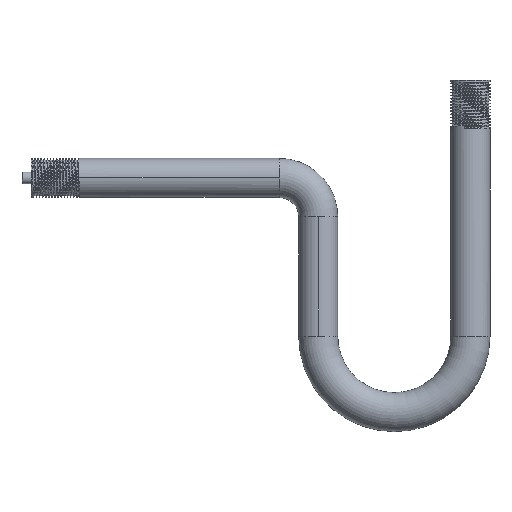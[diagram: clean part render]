
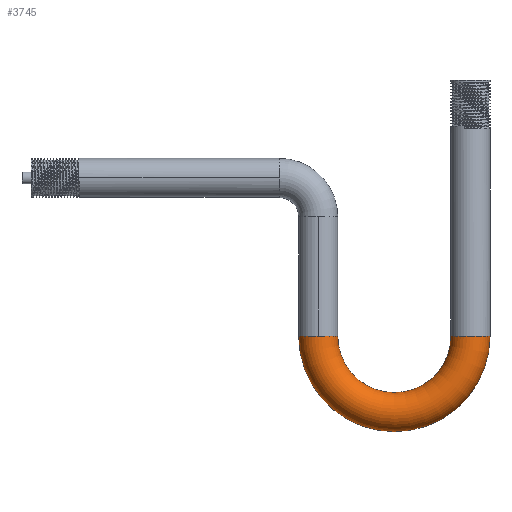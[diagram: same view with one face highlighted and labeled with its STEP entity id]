
A CAD part, top view. The second image highlights one B-rep face of the part: STEP entity #3745.
In plain terms, the highlighted toroidal (fillet/blend) face has major radius 39 mm and minor radius 10 mm.
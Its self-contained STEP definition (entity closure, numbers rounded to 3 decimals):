
#69 = CARTESIAN_POINT ( 'NONE',  ( 147., -81., 0. ) ) ;
#454 = DIRECTION ( 'NONE',  ( -1., 0., 0. ) ) ;
#816 = CIRCLE ( 'NONE', #3610, 10. ) ;
#828 = CIRCLE ( 'NONE', #1745, 10. ) ;
#1056 = VERTEX_POINT ( 'NONE', #6205 ) ;
#1149 = EDGE_CURVE ( 'NONE', #3736, #7186, #816, .T. ) ;
#1163 = TOROIDAL_SURFACE ( 'NONE', #3494, 39., 10. ) ;
#1194 = CARTESIAN_POINT ( 'NONE',  ( 225., -81., 0. ) ) ;
#1226 = CARTESIAN_POINT ( 'NONE',  ( 137., -81., 0. ) ) ;
#1407 = FACE_OUTER_BOUND ( 'NONE', #5698, .T. ) ;
#1507 = CARTESIAN_POINT ( 'NONE',  ( 157., -81., 0. ) ) ;
#1530 = ORIENTED_EDGE ( 'NONE', *, *, #6425, .T. ) ;
#1745 = AXIS2_PLACEMENT_3D ( 'NONE', #69, #5557, #2196 ) ;
#1924 = ORIENTED_EDGE ( 'NONE', *, *, #3181, .T. ) ;
#2196 = DIRECTION ( 'NONE',  ( 0., 0., -1. ) ) ;
#2233 = VERTEX_POINT ( 'NONE', #1226 ) ;
#2458 = DIRECTION ( 'NONE',  ( 0., 0., -1. ) ) ;
#2543 = DIRECTION ( 'NONE',  ( 0., 0., -1. ) ) ;
#2655 = CARTESIAN_POINT ( 'NONE',  ( 147., -81., 0. ) ) ;
#3181 = EDGE_CURVE ( 'NONE', #6210, #7186, #4999, .T. ) ;
#3494 = AXIS2_PLACEMENT_3D ( 'NONE', #5827, #3638, #6867 ) ;
#3546 = CARTESIAN_POINT ( 'NONE',  ( 186., -81., 0. ) ) ;
#3610 = AXIS2_PLACEMENT_3D ( 'NONE', #2655, #6515, #2543 ) ;
#3638 = DIRECTION ( 'NONE',  ( 0., 0., -1. ) ) ;
#3679 = CARTESIAN_POINT ( 'NONE',  ( 186., -81., 0. ) ) ;
#3736 = VERTEX_POINT ( 'NONE', #6412 ) ;
#3745 = ADVANCED_FACE ( 'NONE', ( #1407 ), #1163, .T. ) ;
#4085 = AXIS2_PLACEMENT_3D ( 'NONE', #3546, #2458, #4678 ) ;
#4198 = CIRCLE ( 'NONE', #4085, 49. ) ;
#4292 = DIRECTION ( 'NONE',  ( 0., 0., -1. ) ) ;
#4627 = EDGE_CURVE ( 'NONE', #1056, #2233, #4198, .T. ) ;
#4678 = DIRECTION ( 'NONE',  ( -1., 0., 0. ) ) ;
#4999 = CIRCLE ( 'NONE', #6646, 29. ) ;
#5012 = CIRCLE ( 'NONE', #7230, 10. ) ;
#5224 = ORIENTED_EDGE ( 'NONE', *, *, #1149, .F. ) ;
#5557 = DIRECTION ( 'NONE',  ( 0., 1., 0. ) ) ;
#5576 = EDGE_CURVE ( 'NONE', #2233, #3736, #828, .T. ) ;
#5698 = EDGE_LOOP ( 'NONE', ( #5954, #1530, #1924, #5224, #5734 ) ) ;
#5734 = ORIENTED_EDGE ( 'NONE', *, *, #5576, .F. ) ;
#5827 = CARTESIAN_POINT ( 'NONE',  ( 186., -81., 0. ) ) ;
#5954 = ORIENTED_EDGE ( 'NONE', *, *, #4627, .F. ) ;
#5995 = CARTESIAN_POINT ( 'NONE',  ( 215., -81., 0. ) ) ;
#6205 = CARTESIAN_POINT ( 'NONE',  ( 235., -81., 0. ) ) ;
#6210 = VERTEX_POINT ( 'NONE', #5995 ) ;
#6313 = DIRECTION ( 'NONE',  ( 0., -1., 0. ) ) ;
#6412 = CARTESIAN_POINT ( 'NONE',  ( 147., -81., 10. ) ) ;
#6425 = EDGE_CURVE ( 'NONE', #1056, #6210, #5012, .T. ) ;
#6515 = DIRECTION ( 'NONE',  ( 0., 1., 0. ) ) ;
#6646 = AXIS2_PLACEMENT_3D ( 'NONE', #3679, #4292, #454 ) ;
#6832 = DIRECTION ( 'NONE',  ( 0., 0., -1. ) ) ;
#6867 = DIRECTION ( 'NONE',  ( -1., 0., 0. ) ) ;
#7186 = VERTEX_POINT ( 'NONE', #1507 ) ;
#7230 = AXIS2_PLACEMENT_3D ( 'NONE', #1194, #6313, #6832 ) ;
